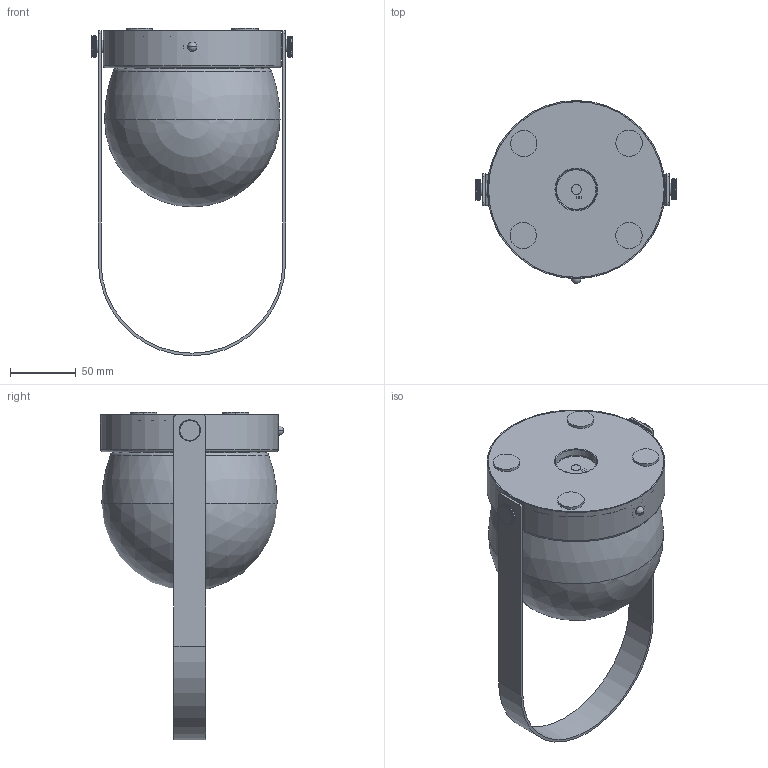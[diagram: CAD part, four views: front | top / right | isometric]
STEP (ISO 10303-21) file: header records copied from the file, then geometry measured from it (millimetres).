
FILE_DESCRIPTION (( 'STEP AP214' ), '1' );
FILE_NAME ('Carrie_TL_Portable.STEP', '2021-06-23T11:44:01', ( '' ), ( '' ), 'SwSTEP 2.0', 'SolidWorks 2020', '' );
FILE_SCHEMA (( 'AUTOMOTIVE_DESIGN' ));
Length unit declared in the file: millimetre
Products named in the file (1): Carrie_TL_Portable
Bounding box: 153 x 138.8 x 248.38 mm (x, y, z)
Volume: 356831.6 mm3; surface area: 290243.2 mm2
Topology: 28 solids, 28 shells, 1541 faces, 4040 edges, 2627 vertices
Faces by surface type: cylinder 672, plane 601, bspline 124, torus 92, cone 38, sphere 14
Entity records: 147258 total; most frequent: CARTESIAN_POINT 94164, ORIENTED_EDGE 8030, DIRECTION 6605, EDGE_CURVE 4015, VERTEX_POINT 2616, AXIS2_PLACEMENT_3D 2573, EDGE_LOOP 1707, UNCERTAINTY_MEASURE_WITH_UNIT 1571
